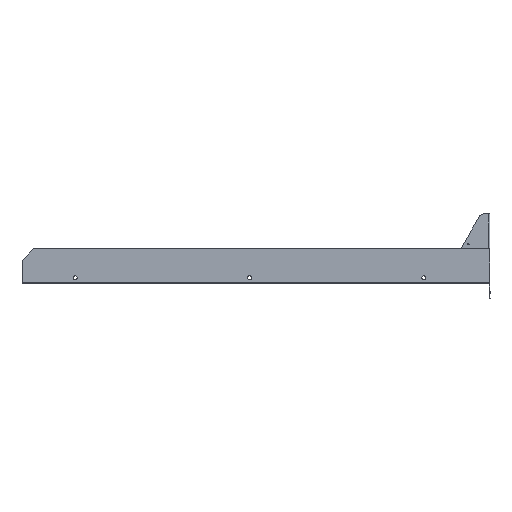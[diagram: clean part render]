
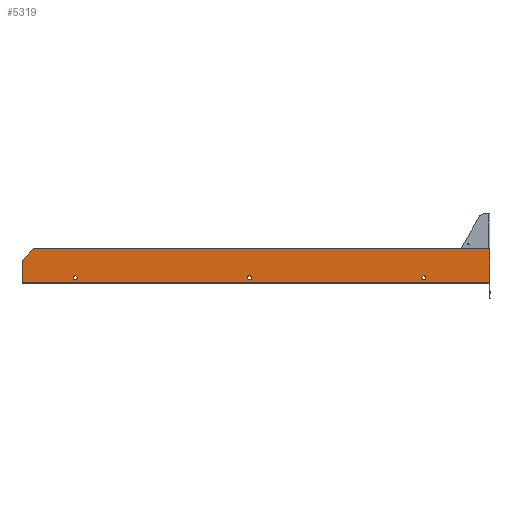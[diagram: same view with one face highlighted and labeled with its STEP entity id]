
A CAD part, left-side view. The second image highlights one B-rep face of the part: STEP entity #5319.
In plain terms, the highlighted planar face has unit normal (-1, 0, 0).
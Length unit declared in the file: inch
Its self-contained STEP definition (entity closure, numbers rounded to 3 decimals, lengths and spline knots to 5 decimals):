
#33 = FACE_BOUND ( 'NONE', #5214, .T. ) ;
#220 = LINE ( 'NONE', #9222, #4718 ) ;
#264 = DIRECTION ( 'NONE',  ( -1., 0., 0. ) ) ;
#367 = AXIS2_PLACEMENT_3D ( 'NONE', #1000, #4470, #11260 ) ;
#712 = DIRECTION ( 'NONE',  ( 0., 0., 1. ) ) ;
#755 = VERTEX_POINT ( 'NONE', #13148 ) ;
#806 = ORIENTED_EDGE ( 'NONE', *, *, #10811, .F. ) ;
#895 = DIRECTION ( 'NONE',  ( -1., 0., 0. ) ) ;
#1000 = CARTESIAN_POINT ( 'NONE',  ( 0., 1.1175, 1. ) ) ;
#1529 = EDGE_CURVE ( 'NONE', #13799, #13532, #4709, .T. ) ;
#1542 = DIRECTION ( 'NONE',  ( 0., -1., 0. ) ) ;
#1627 = CARTESIAN_POINT ( 'NONE',  ( 0., -28.8825, 0.664 ) ) ;
#1726 = ORIENTED_EDGE ( 'NONE', *, *, #3189, .F. ) ;
#1759 = EDGE_LOOP ( 'NONE', ( #11718, #12207 ) ) ;
#1858 = CARTESIAN_POINT ( 'NONE',  ( 0., 31.1175, 1. ) ) ;
#1932 = VERTEX_POINT ( 'NONE', #1627 ) ;
#2423 = EDGE_CURVE ( 'NONE', #1932, #10505, #7969, .T. ) ;
#2439 = EDGE_CURVE ( 'NONE', #10505, #1932, #3945, .T. ) ;
#2781 = VERTEX_POINT ( 'NONE', #11806 ) ;
#2889 = VECTOR ( 'NONE', #712, 39.37008 ) ;
#3085 = LINE ( 'NONE', #14023, #2889 ) ;
#3118 = DIRECTION ( 'NONE',  ( 0., 0., 1. ) ) ;
#3189 = EDGE_CURVE ( 'NONE', #4956, #4842, #10761, .T. ) ;
#3285 = AXIS2_PLACEMENT_3D ( 'NONE', #12381, #6214, #8503 ) ;
#3575 = DIRECTION ( 'NONE',  ( -1., 0., 0. ) ) ;
#3626 = DIRECTION ( 'NONE',  ( 0., 0.707, -0.707 ) ) ;
#3632 = CARTESIAN_POINT ( 'NONE',  ( 0., 1.1175, 1.336 ) ) ;
#3788 = AXIS2_PLACEMENT_3D ( 'NONE', #7608, #8918, #7677 ) ;
#3922 = VERTEX_POINT ( 'NONE', #6761 ) ;
#3945 = CIRCLE ( 'NONE', #12218, 0.336 ) ;
#4470 = DIRECTION ( 'NONE',  ( -1., 0., 0. ) ) ;
#4553 = FACE_OUTER_BOUND ( 'NONE', #8067, .T. ) ;
#4709 = LINE ( 'NONE', #7483, #7235 ) ;
#4718 = VECTOR ( 'NONE', #3626, 39.37008 ) ;
#4842 = VERTEX_POINT ( 'NONE', #11571 ) ;
#4956 = VERTEX_POINT ( 'NONE', #9417 ) ;
#5214 = EDGE_LOOP ( 'NONE', ( #5424, #806 ) ) ;
#5319 = ADVANCED_FACE ( 'NONE', ( #11269, #10160, #33, #4553 ), #11339, .F. ) ;
#5424 = ORIENTED_EDGE ( 'NONE', *, *, #8461, .F. ) ;
#5495 = LINE ( 'NONE', #6618, #7923 ) ;
#6028 = EDGE_LOOP ( 'NONE', ( #12134, #12905 ) ) ;
#6214 = DIRECTION ( 'NONE',  ( 1., 0., 0. ) ) ;
#6245 = CARTESIAN_POINT ( 'NONE',  ( 0., 40.275, 4. ) ) ;
#6249 = EDGE_CURVE ( 'NONE', #4956, #14270, #220, .T. ) ;
#6565 = AXIS2_PLACEMENT_3D ( 'NONE', #11773, #14071, #11640 ) ;
#6618 = CARTESIAN_POINT ( 'NONE',  ( 0., 40.275, 0. ) ) ;
#6761 = CARTESIAN_POINT ( 'NONE',  ( 0., 1.1175, 0.664 ) ) ;
#7045 = CARTESIAN_POINT ( 'NONE',  ( 0., 31.1175, 1. ) ) ;
#7219 = ORIENTED_EDGE ( 'NONE', *, *, #14295, .T. ) ;
#7235 = VECTOR ( 'NONE', #11570, 39.37008 ) ;
#7324 = AXIS2_PLACEMENT_3D ( 'NONE', #7045, #3575, #12584 ) ;
#7483 = CARTESIAN_POINT ( 'NONE',  ( 0., 40.275, 0.208 ) ) ;
#7570 = CIRCLE ( 'NONE', #3788, 0.336 ) ;
#7608 = CARTESIAN_POINT ( 'NONE',  ( 0., 1.1175, 1. ) ) ;
#7677 = DIRECTION ( 'NONE',  ( 0., 0., 1. ) ) ;
#7923 = VECTOR ( 'NONE', #12440, 39.37008 ) ;
#7969 = CIRCLE ( 'NONE', #6565, 0.336 ) ;
#8067 = EDGE_LOOP ( 'NONE', ( #1726, #9054, #12472, #13829, #7219 ) ) ;
#8461 = EDGE_CURVE ( 'NONE', #12435, #3922, #12645, .T. ) ;
#8503 = DIRECTION ( 'NONE',  ( 0., 0., -1. ) ) ;
#8561 = EDGE_CURVE ( 'NONE', #13799, #14270, #5495, .T. ) ;
#8918 = DIRECTION ( 'NONE',  ( -1., 0., 0. ) ) ;
#9054 = ORIENTED_EDGE ( 'NONE', *, *, #6249, .T. ) ;
#9222 = CARTESIAN_POINT ( 'NONE',  ( 0., 38.275, 6. ) ) ;
#9417 = CARTESIAN_POINT ( 'NONE',  ( 0., 38.275, 6. ) ) ;
#10160 = FACE_BOUND ( 'NONE', #6028, .T. ) ;
#10505 = VERTEX_POINT ( 'NONE', #12509 ) ;
#10642 = EDGE_CURVE ( 'NONE', #2781, #755, #12974, .T. ) ;
#10674 = CARTESIAN_POINT ( 'NONE',  ( 0., -28.8825, 1. ) ) ;
#10761 = LINE ( 'NONE', #11790, #13582 ) ;
#10811 = EDGE_CURVE ( 'NONE', #3922, #12435, #7570, .T. ) ;
#11260 = DIRECTION ( 'NONE',  ( 0., 0., 1. ) ) ;
#11269 = FACE_BOUND ( 'NONE', #1759, .T. ) ;
#11339 = PLANE ( 'NONE',  #3285 ) ;
#11570 = DIRECTION ( 'NONE',  ( 0., -1., 0. ) ) ;
#11571 = CARTESIAN_POINT ( 'NONE',  ( 0., -40.275, 6. ) ) ;
#11640 = DIRECTION ( 'NONE',  ( 0., 0., 1. ) ) ;
#11718 = ORIENTED_EDGE ( 'NONE', *, *, #10642, .F. ) ;
#11773 = CARTESIAN_POINT ( 'NONE',  ( 0., -28.8825, 1. ) ) ;
#11790 = CARTESIAN_POINT ( 'NONE',  ( 0., 40.275, 6. ) ) ;
#11806 = CARTESIAN_POINT ( 'NONE',  ( 0., 31.1175, 1.336 ) ) ;
#11975 = CARTESIAN_POINT ( 'NONE',  ( 0., -40.275, 0.208 ) ) ;
#12127 = EDGE_CURVE ( 'NONE', #755, #2781, #13010, .T. ) ;
#12134 = ORIENTED_EDGE ( 'NONE', *, *, #2439, .F. ) ;
#12207 = ORIENTED_EDGE ( 'NONE', *, *, #12127, .F. ) ;
#12218 = AXIS2_PLACEMENT_3D ( 'NONE', #10674, #264, #12748 ) ;
#12381 = CARTESIAN_POINT ( 'NONE',  ( 0., 40.275, 0. ) ) ;
#12435 = VERTEX_POINT ( 'NONE', #3632 ) ;
#12440 = DIRECTION ( 'NONE',  ( 0., 0., 1. ) ) ;
#12472 = ORIENTED_EDGE ( 'NONE', *, *, #8561, .F. ) ;
#12509 = CARTESIAN_POINT ( 'NONE',  ( 0., -28.8825, 1.336 ) ) ;
#12584 = DIRECTION ( 'NONE',  ( 0., 0., 1. ) ) ;
#12645 = CIRCLE ( 'NONE', #367, 0.336 ) ;
#12709 = CARTESIAN_POINT ( 'NONE',  ( 0., 40.275, 0.208 ) ) ;
#12748 = DIRECTION ( 'NONE',  ( 0., 0., 1. ) ) ;
#12905 = ORIENTED_EDGE ( 'NONE', *, *, #2423, .F. ) ;
#12974 = CIRCLE ( 'NONE', #7324, 0.336 ) ;
#13010 = CIRCLE ( 'NONE', #13965, 0.336 ) ;
#13148 = CARTESIAN_POINT ( 'NONE',  ( 0., 31.1175, 0.664 ) ) ;
#13532 = VERTEX_POINT ( 'NONE', #11975 ) ;
#13582 = VECTOR ( 'NONE', #1542, 39.37008 ) ;
#13799 = VERTEX_POINT ( 'NONE', #12709 ) ;
#13829 = ORIENTED_EDGE ( 'NONE', *, *, #1529, .T. ) ;
#13965 = AXIS2_PLACEMENT_3D ( 'NONE', #1858, #895, #3118 ) ;
#14023 = CARTESIAN_POINT ( 'NONE',  ( 0., -40.275, 0. ) ) ;
#14071 = DIRECTION ( 'NONE',  ( -1., 0., 0. ) ) ;
#14270 = VERTEX_POINT ( 'NONE', #6245 ) ;
#14295 = EDGE_CURVE ( 'NONE', #13532, #4842, #3085, .T. ) ;
